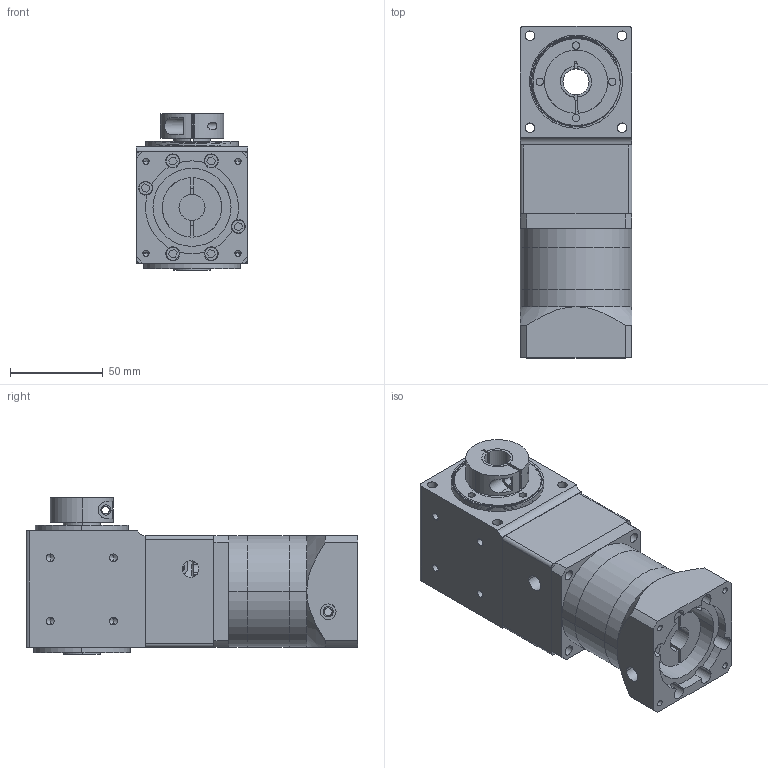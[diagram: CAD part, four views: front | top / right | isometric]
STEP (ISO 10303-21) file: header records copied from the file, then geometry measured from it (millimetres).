
FILE_DESCRIPTION (( 'STEP AP203' ), '1' );
FILE_NAME ('PVFGB060-L2-(14-30-50-2-4-4.5-70).STEP', '2022-10-18T11:39:05', ( 'User' ), ( 'China' ), 'SwSTEP 2.0', 'SolidWorks 2015', '' );
FILE_SCHEMA (( 'CONFIG_CONTROL_DESIGN' ));
Length unit declared in the file: millimetre
Products named in the file (12): 20-32-5蚐猾; 綴楊擘1ㄗ37綠ㄘ; 褲极; PVFGB060装配图（400W）加厚法兰; 標杶; KPF60-L1-14轴（14-30-50-3-4-4.5-70）; 蹟譫; PVFGB060-L2-(14-30-50-2-4-4.5-70); 输入轴; deep groove ball bearings gb_Rolling bearings 6003 GB 276-94; tapered roller bearings gb_Rolling bearings 30204 GB 297-94; 60等謂怀堤粣
Assembly tree (15 placements, depth 3):
  PVFGB060-L2-(14-30-50-2-4-4.5-70)
    PVFGB060装配图（400W）加厚法兰
      褲极
      標杶  x2
      蹟譫  x2
      输入轴
      deep groove ball bearings gb_Rolling bearings 6003 GB 276-94
      tapered roller bearings gb_Rolling bearings 30204 GB 297-94  x2
      60等謂怀堤粣
      20-32-5蚐猾  x2
      綴楊擘1ㄗ37綠ㄘ
    KPF60-L1-14轴（14-30-50-3-4-4.5-70）
Bounding box: 60 x 178.5 x 84 mm (x, y, z)
Volume: 482832.6 mm3; surface area: 179553.4 mm2
Topology: 17 solids, 17 shells, 1019 faces, 3247 edges, 2112 vertices
Faces by surface type: cylinder 355, plane 285, torus 198, cone 135, sphere 34, bspline 12
Entity records: 36360 total; most frequent: CARTESIAN_POINT 13514, ORIENTED_EDGE 4718, DIRECTION 4404, EDGE_CURVE 2359, AXIS2_PLACEMENT_3D 1872, VERTEX_POINT 1559, CIRCLE 1054, EDGE_LOOP 982
